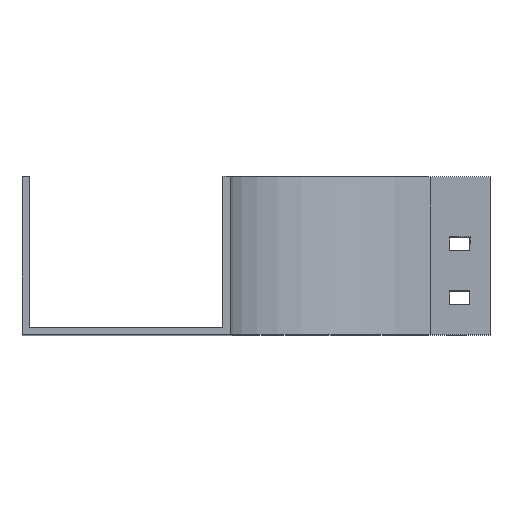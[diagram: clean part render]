
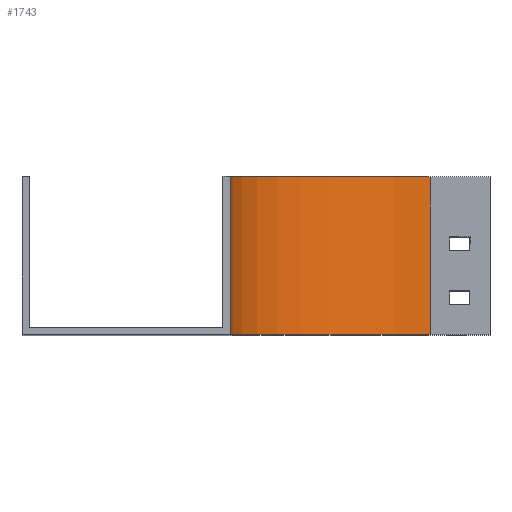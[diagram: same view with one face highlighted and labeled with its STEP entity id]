
A CAD part, top view. The second image highlights one B-rep face of the part: STEP entity #1743.
In plain terms, the highlighted cylindrical face has radius 100 mm (diameter 200 mm), a partial arc.
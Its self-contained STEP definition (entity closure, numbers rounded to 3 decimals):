
#30 = EDGE_CURVE ( 'NONE', #1026, #592, #637, .T. ) ;
#35 = DIRECTION ( 'NONE',  ( 0., 0., -1. ) ) ;
#80 = ORIENTED_EDGE ( 'NONE', *, *, #1928, .F. ) ;
#84 = CARTESIAN_POINT ( 'NONE',  ( 0., 79., -100. ) ) ;
#139 = EDGE_CURVE ( 'NONE', #1897, #1603, #2001, .T. ) ;
#217 = CIRCLE ( 'NONE', #1777, 100. ) ;
#238 = VECTOR ( 'NONE', #2330, 1000. ) ;
#252 = FACE_OUTER_BOUND ( 'NONE', #2730, .T. ) ;
#333 = AXIS2_PLACEMENT_3D ( 'NONE', #1634, #2266, #359 ) ;
#359 = DIRECTION ( 'NONE',  ( 0., 0., -1. ) ) ;
#449 = EDGE_CURVE ( 'NONE', #592, #1603, #1351, .T. ) ;
#592 = VERTEX_POINT ( 'NONE', #2399 ) ;
#603 = CARTESIAN_POINT ( 'NONE',  ( 0., 0., -100. ) ) ;
#637 = LINE ( 'NONE', #1473, #238 ) ;
#653 = CARTESIAN_POINT ( 'NONE',  ( -100., 79., 0. ) ) ;
#874 = CYLINDRICAL_SURFACE ( 'NONE', #2352, 100. ) ;
#1026 = VERTEX_POINT ( 'NONE', #653 ) ;
#1110 = ORIENTED_EDGE ( 'NONE', *, *, #30, .T. ) ;
#1145 = CARTESIAN_POINT ( 'NONE',  ( 0., 79., 0. ) ) ;
#1319 = ORIENTED_EDGE ( 'NONE', *, *, #449, .T. ) ;
#1351 = CIRCLE ( 'NONE', #333, 100. ) ;
#1473 = CARTESIAN_POINT ( 'NONE',  ( -100., 79., 0. ) ) ;
#1579 = DIRECTION ( 'NONE',  ( 0., -1., 0. ) ) ;
#1603 = VERTEX_POINT ( 'NONE', #603 ) ;
#1634 = CARTESIAN_POINT ( 'NONE',  ( 0., 0., 0. ) ) ;
#1743 = ADVANCED_FACE ( 'NONE', ( #252 ), #874, .F. ) ;
#1777 = AXIS2_PLACEMENT_3D ( 'NONE', #2250, #1579, #1856 ) ;
#1856 = DIRECTION ( 'NONE',  ( 0., 0., -1. ) ) ;
#1897 = VERTEX_POINT ( 'NONE', #84 ) ;
#1928 = EDGE_CURVE ( 'NONE', #1026, #1897, #217, .T. ) ;
#2001 = LINE ( 'NONE', #2426, #2602 ) ;
#2250 = CARTESIAN_POINT ( 'NONE',  ( 0., 79., 0. ) ) ;
#2266 = DIRECTION ( 'NONE',  ( 0., -1., 0. ) ) ;
#2330 = DIRECTION ( 'NONE',  ( 0., -1., 0. ) ) ;
#2352 = AXIS2_PLACEMENT_3D ( 'NONE', #1145, #2386, #35 ) ;
#2386 = DIRECTION ( 'NONE',  ( 0., -1., 0. ) ) ;
#2399 = CARTESIAN_POINT ( 'NONE',  ( -100., 0., 0. ) ) ;
#2414 = DIRECTION ( 'NONE',  ( 0., -1., 0. ) ) ;
#2426 = CARTESIAN_POINT ( 'NONE',  ( 0., 79., -100. ) ) ;
#2520 = ORIENTED_EDGE ( 'NONE', *, *, #139, .F. ) ;
#2602 = VECTOR ( 'NONE', #2414, 1000. ) ;
#2730 = EDGE_LOOP ( 'NONE', ( #1319, #2520, #80, #1110 ) ) ;
